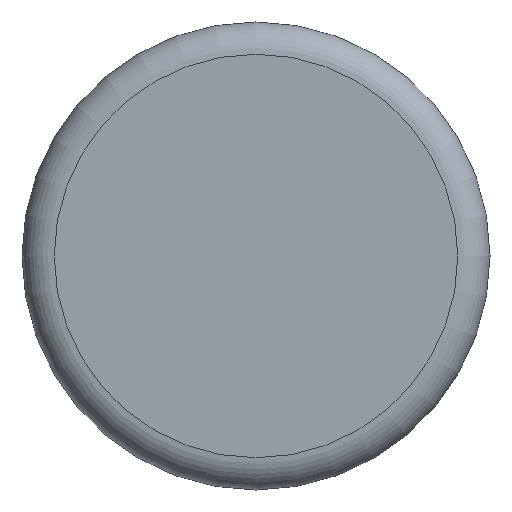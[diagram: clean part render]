
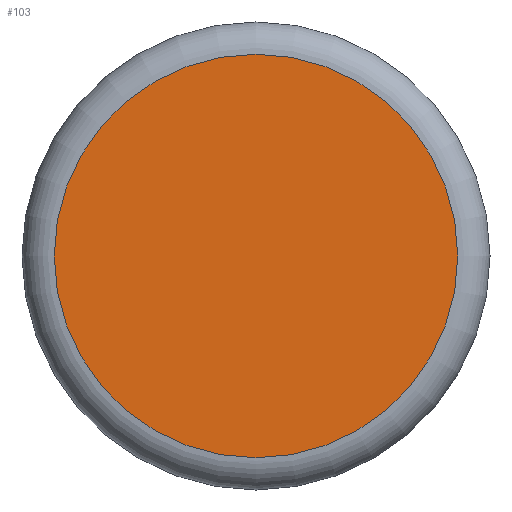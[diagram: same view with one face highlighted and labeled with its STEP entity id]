
A CAD part, front view. The second image highlights one B-rep face of the part: STEP entity #103.
In plain terms, the highlighted planar face has unit normal (0, -1, 0).
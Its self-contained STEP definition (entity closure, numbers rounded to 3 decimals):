
#103=ADVANCED_FACE('',(#184),#186,.T.);
#184=FACE_BOUND('',#185,.T.);
#185=EDGE_LOOP('',(#226));
#186=PLANE('',#187);
#187=AXIS2_PLACEMENT_3D('',#188,#189,#190);
#188=CARTESIAN_POINT('',(0.,-0.6,0.));
#189=DIRECTION('',(0.,-1.,0.));
#190=DIRECTION('',(0.,0.,-1.));
#226=ORIENTED_EDGE('',*,*,#238,.T.);
#238=EDGE_CURVE('',#252,#252,#253,.T.);
#252=VERTEX_POINT('',#286);
#253=CIRCLE('',#287,0.625);
#286=CARTESIAN_POINT('',(0.,-0.6,-0.625));
#287=AXIS2_PLACEMENT_3D('',#288,#289,#290);
#288=CARTESIAN_POINT('',(0.,-0.6,0.));
#289=DIRECTION('',(0.,-1.,0.));
#290=DIRECTION('',(0.,0.,-1.));
